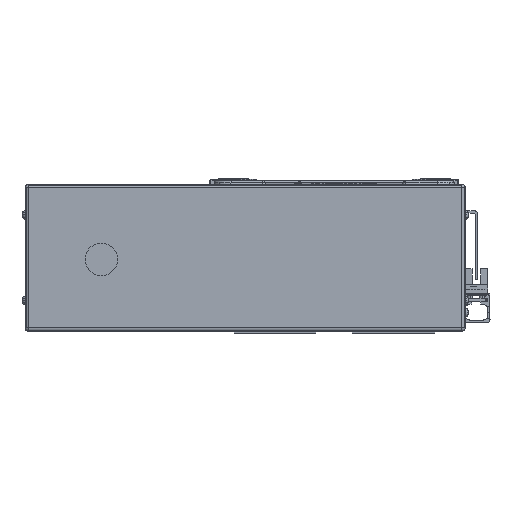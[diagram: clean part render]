
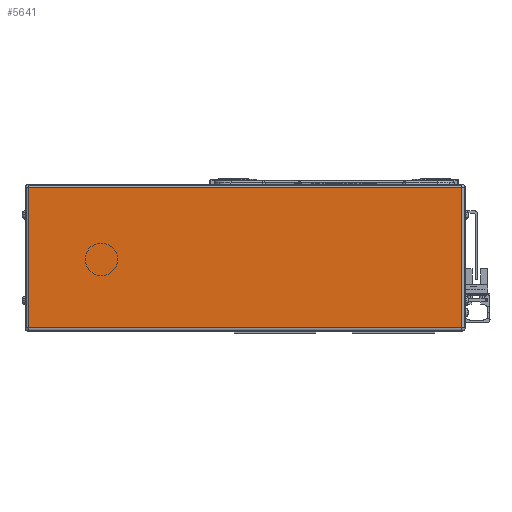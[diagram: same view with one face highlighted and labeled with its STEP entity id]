
A CAD part, left-side view. The second image highlights one B-rep face of the part: STEP entity #5641.
In plain terms, the highlighted planar face has unit normal (-1, 0, 0).
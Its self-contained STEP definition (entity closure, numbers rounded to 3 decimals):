
#5641=ADVANCED_FACE('',(#12984),#12985,.F.);
#12984=FACE_OUTER_BOUND('',#22626,.T.);
#12985=PLANE('',#22627);
#22626=EDGE_LOOP('',(#39385,#39386,#39387,#39388));
#22627=AXIS2_PLACEMENT_3D('',#39389,#39390,#39391);
#39385=ORIENTED_EDGE('',*,*,#61648,.T.);
#39386=ORIENTED_EDGE('',*,*,#61649,.T.);
#39387=ORIENTED_EDGE('',*,*,#61650,.T.);
#39388=ORIENTED_EDGE('',*,*,#56609,.T.);
#39389=CARTESIAN_POINT('',(-45.,180.5,0.));
#39390=DIRECTION('',(1.0,0.,0.));
#39391=DIRECTION('',(0.,0.,1.0));
#56609=EDGE_CURVE('',#67306,#67304,#67307,.T.);
#61648=EDGE_CURVE('',#67304,#75639,#75640,.T.);
#61649=EDGE_CURVE('',#75639,#74205,#75641,.T.);
#61650=EDGE_CURVE('',#74205,#67306,#75642,.T.);
#67304=VERTEX_POINT('',#82723);
#67306=VERTEX_POINT('',#82725);
#67307=LINE('',#82726,#82727);
#74205=VERTEX_POINT('',#92271);
#75639=VERTEX_POINT('',#94329);
#75640=LINE('',#94330,#94331);
#75641=LINE('',#94332,#94333);
#75642=LINE('',#94334,#94335);
#82723=CARTESIAN_POINT('',(-45.,178.5,41.));
#82725=CARTESIAN_POINT('',(-45.,-74.5,41.));
#82726=CARTESIAN_POINT('',(-45.,180.5,41.));
#82727=VECTOR('',#104476,10.0);
#92271=CARTESIAN_POINT('',(-45.,-74.5,-41.));
#94329=CARTESIAN_POINT('',(-45.,178.5,-41.));
#94330=CARTESIAN_POINT('',(-45.,178.5,0.));
#94331=VECTOR('',#111595,10.0);
#94332=CARTESIAN_POINT('',(-45.,180.5,-41.));
#94333=VECTOR('',#111596,10.0);
#94334=CARTESIAN_POINT('',(-45.,-74.5,0.));
#94335=VECTOR('',#111597,10.0);
#104476=DIRECTION('',(0.,1.0,0.));
#111595=DIRECTION('',(0.,0.,-1.0));
#111596=DIRECTION('',(0.,-1.0,0.));
#111597=DIRECTION('',(0.,0.,1.0));
